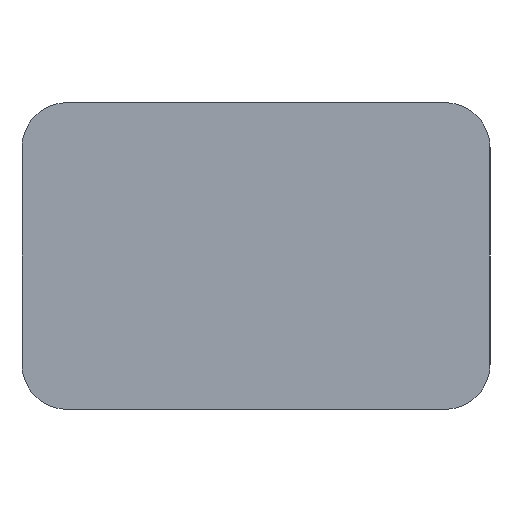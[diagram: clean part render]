
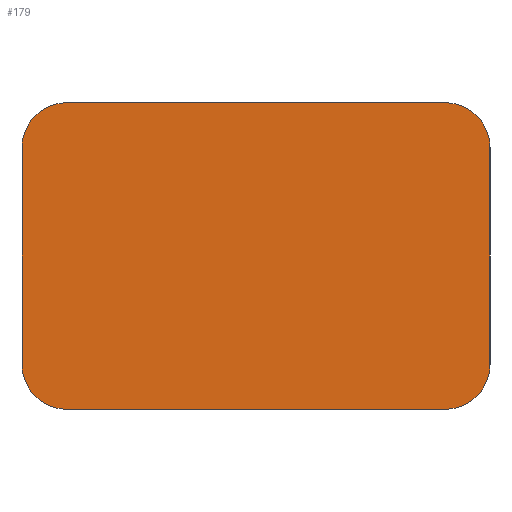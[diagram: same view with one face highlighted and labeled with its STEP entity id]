
A CAD part, left-side view. The second image highlights one B-rep face of the part: STEP entity #179.
In plain terms, the highlighted planar face has unit normal (-1, 0, 0).
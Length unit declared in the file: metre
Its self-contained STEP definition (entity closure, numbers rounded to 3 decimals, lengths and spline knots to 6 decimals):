
#20=CIRCLE('',#199,0.0025);
#21=CIRCLE('',#202,0.0025);
#22=CIRCLE('',#205,0.0025);
#23=CIRCLE('',#208,0.0025);
#64=ORIENTED_EDGE('',*,*,#82,.F.);
#65=ORIENTED_EDGE('',*,*,#95,.F.);
#66=ORIENTED_EDGE('',*,*,#94,.F.);
#67=ORIENTED_EDGE('',*,*,#92,.F.);
#68=ORIENTED_EDGE('',*,*,#90,.F.);
#69=ORIENTED_EDGE('',*,*,#88,.F.);
#70=ORIENTED_EDGE('',*,*,#86,.F.);
#71=ORIENTED_EDGE('',*,*,#84,.F.);
#82=EDGE_CURVE('',#105,#104,#20,.T.);
#84=EDGE_CURVE('',#104,#106,#119,.T.);
#86=EDGE_CURVE('',#106,#107,#21,.T.);
#88=EDGE_CURVE('',#107,#108,#122,.T.);
#90=EDGE_CURVE('',#108,#109,#22,.T.);
#92=EDGE_CURVE('',#109,#110,#125,.T.);
#94=EDGE_CURVE('',#110,#111,#23,.T.);
#95=EDGE_CURVE('',#111,#105,#127,.T.);
#104=VERTEX_POINT('',#285);
#105=VERTEX_POINT('',#287);
#106=VERTEX_POINT('',#291);
#107=VERTEX_POINT('',#295);
#108=VERTEX_POINT('',#299);
#109=VERTEX_POINT('',#303);
#110=VERTEX_POINT('',#307);
#111=VERTEX_POINT('',#311);
#119=LINE('',#292,#135);
#122=LINE('',#300,#138);
#125=LINE('',#308,#141);
#127=LINE('',#314,#143);
#135=VECTOR('',#236,1.);
#138=VECTOR('',#245,1.);
#141=VECTOR('',#254,1.);
#143=VECTOR('',#262,1.);
#153=EDGE_LOOP('',(#64,#65,#66,#67,#68,#69,#70,#71));
#163=FACE_BOUND('',#153,.T.);
#169=PLANE('',#210);
#179=ADVANCED_FACE('',(#163),#169,.F.);
#199=AXIS2_PLACEMENT_3D('',#288,#231,#232);
#202=AXIS2_PLACEMENT_3D('',#296,#240,#241);
#205=AXIS2_PLACEMENT_3D('',#304,#249,#250);
#208=AXIS2_PLACEMENT_3D('',#312,#258,#259);
#210=AXIS2_PLACEMENT_3D('',#315,#263,#264);
#231=DIRECTION('',(1.,0.,0.));
#232=DIRECTION('',(0.,0.,1.));
#236=DIRECTION('',(0.,-1.,0.));
#240=DIRECTION('',(1.,0.,0.));
#241=DIRECTION('',(0.,0.,1.));
#245=DIRECTION('',(0.,0.,-1.));
#249=DIRECTION('',(1.,0.,0.));
#250=DIRECTION('',(0.,0.,1.));
#254=DIRECTION('',(0.,1.,0.));
#258=DIRECTION('',(1.,0.,0.));
#259=DIRECTION('',(0.,0.,1.));
#262=DIRECTION('',(0.,0.,1.));
#263=DIRECTION('',(1.,0.,0.));
#264=DIRECTION('',(0.,0.,1.));
#285=CARTESIAN_POINT('',(-0.11535,-0.0131,0.00025));
#287=CARTESIAN_POINT('',(-0.11535,-0.0106,-0.00225));
#288=CARTESIAN_POINT('',(-0.11535,-0.0131,-0.00225));
#291=CARTESIAN_POINT('',(-0.11535,-0.0342,0.00025));
#292=CARTESIAN_POINT('',(-0.11535,-0.0342,0.00025));
#295=CARTESIAN_POINT('',(-0.11535,-0.0367,-0.00225));
#296=CARTESIAN_POINT('',(-0.11535,-0.0342,-0.00225));
#299=CARTESIAN_POINT('',(-0.11535,-0.0367,-0.01435));
#300=CARTESIAN_POINT('',(-0.11535,-0.0367,-0.01435));
#303=CARTESIAN_POINT('',(-0.11535,-0.0342,-0.01685));
#304=CARTESIAN_POINT('',(-0.11535,-0.0342,-0.01435));
#307=CARTESIAN_POINT('',(-0.11535,-0.0131,-0.01685));
#308=CARTESIAN_POINT('',(-0.11535,-0.0131,-0.01685));
#311=CARTESIAN_POINT('',(-0.11535,-0.0106,-0.01435));
#312=CARTESIAN_POINT('',(-0.11535,-0.0131,-0.01435));
#314=CARTESIAN_POINT('',(-0.11535,-0.0106,-0.00225));
#315=CARTESIAN_POINT('',(-0.11535,-0.0131,-0.00225));
